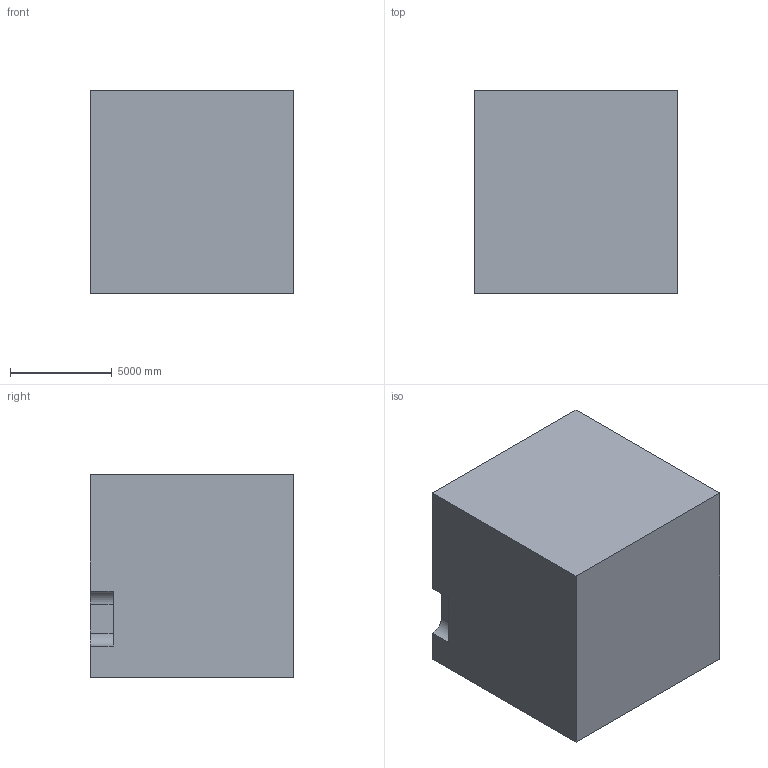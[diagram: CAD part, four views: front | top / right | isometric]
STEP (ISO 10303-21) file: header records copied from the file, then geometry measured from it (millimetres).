
FILE_DESCRIPTION (( 'STEP AP203' ), '1' );
FILE_NAME ('110.STEP', '2022-09-06T13:17:36', ( 'user' ), ( '' ), 'SwSTEP 2.0', 'SolidWorks 2021', '' );
FILE_SCHEMA (( 'CONFIG_CONTROL_DESIGN' ));
Length unit declared in the file: centimetre
Products named in the file (1): 110
Bounding box: 10000 x 10000 x 10000 mm (x, y, z)
Volume: 997431279551 mm3; surface area: 605664966.9 mm2
Topology: 1 solids, 1 shells, 14 faces, 33 edges, 22 vertices
Faces by surface type: plane 12, cylinder 2
Entity records: 478 total; most frequent: CARTESIAN_POINT 70, DIRECTION 67, ORIENTED_EDGE 66, EDGE_CURVE 33, LINE 29, VECTOR 29, VERTEX_POINT 22, AXIS2_PLACEMENT_3D 19
